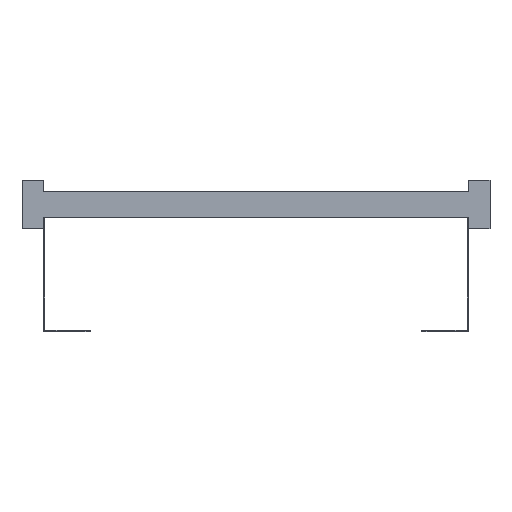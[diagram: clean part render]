
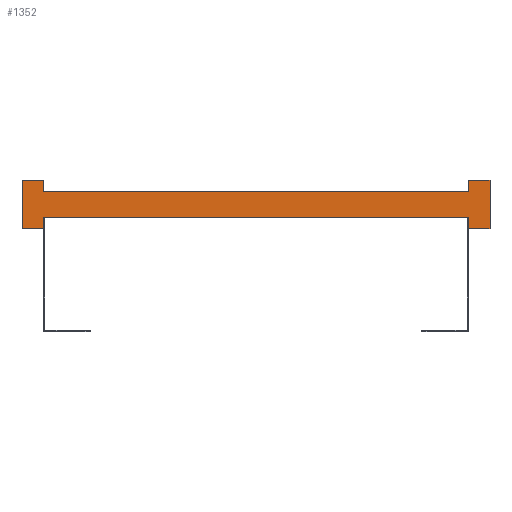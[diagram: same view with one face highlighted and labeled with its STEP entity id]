
A CAD part, front view. The second image highlights one B-rep face of the part: STEP entity #1352.
In plain terms, the highlighted planar face has unit normal (0, -1, 0).
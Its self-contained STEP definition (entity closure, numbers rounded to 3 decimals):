
#113=DIRECTION('',(0.,0.,1.));
#114=VECTOR('',#113,13.5);
#115=CARTESIAN_POINT('',(250.,0.,-28.5));
#116=LINE('',#115,#114);
#117=DIRECTION('',(0.,0.,-1.));
#118=VECTOR('',#117,13.5);
#119=CARTESIAN_POINT('',(-250.,0.,-15.));
#120=LINE('',#119,#118);
#121=DIRECTION('',(-1.,0.,0.));
#122=VECTOR('',#121,25.);
#123=CARTESIAN_POINT('',(-250.,0.,-28.5));
#124=LINE('',#123,#122);
#125=DIRECTION('',(0.,0.,1.));
#126=VECTOR('',#125,57.);
#127=CARTESIAN_POINT('',(-275.,0.,-28.5));
#128=LINE('',#127,#126);
#129=DIRECTION('',(1.,0.,0.));
#130=VECTOR('',#129,25.);
#131=CARTESIAN_POINT('',(-275.,0.,28.5));
#132=LINE('',#131,#130);
#133=DIRECTION('',(0.,0.,-1.));
#134=VECTOR('',#133,13.5);
#135=CARTESIAN_POINT('',(-250.,0.,28.5));
#136=LINE('',#135,#134);
#137=DIRECTION('',(0.,0.,1.));
#138=VECTOR('',#137,13.5);
#139=CARTESIAN_POINT('',(250.,0.,15.));
#140=LINE('',#139,#138);
#141=DIRECTION('',(1.,0.,0.));
#142=VECTOR('',#141,25.);
#143=CARTESIAN_POINT('',(250.,0.,28.5));
#144=LINE('',#143,#142);
#145=DIRECTION('',(0.,0.,-1.));
#146=VECTOR('',#145,57.);
#147=CARTESIAN_POINT('',(275.,0.,28.5));
#148=LINE('',#147,#146);
#149=DIRECTION('',(-1.,0.,0.));
#150=VECTOR('',#149,25.);
#151=CARTESIAN_POINT('',(275.,0.,-28.5));
#152=LINE('',#151,#150);
#1009=DIRECTION('',(1.,0.,0.));
#1010=VECTOR('',#1009,500.);
#1011=CARTESIAN_POINT('',(-250.,0.,-15.));
#1012=LINE('',#1011,#1010);
#1021=DIRECTION('',(1.,0.,0.));
#1022=VECTOR('',#1021,500.);
#1023=CARTESIAN_POINT('',(-250.,0.,15.));
#1024=LINE('',#1023,#1022);
#1025=CARTESIAN_POINT('',(-275.,0.,28.5));
#1026=CARTESIAN_POINT('',(-250.,0.,28.5));
#1027=VERTEX_POINT('',#1025);
#1028=VERTEX_POINT('',#1026);
#1029=CARTESIAN_POINT('',(-250.,0.,-28.5));
#1030=CARTESIAN_POINT('',(-275.,0.,-28.5));
#1031=VERTEX_POINT('',#1029);
#1032=VERTEX_POINT('',#1030);
#1033=CARTESIAN_POINT('',(275.,0.,28.5));
#1034=CARTESIAN_POINT('',(275.,0.,-28.5));
#1035=VERTEX_POINT('',#1033);
#1036=VERTEX_POINT('',#1034);
#1037=CARTESIAN_POINT('',(250.,0.,-28.5));
#1038=VERTEX_POINT('',#1037);
#1039=CARTESIAN_POINT('',(250.,0.,28.5));
#1040=VERTEX_POINT('',#1039);
#1057=CARTESIAN_POINT('',(-250.,0.,-15.));
#1059=VERTEX_POINT('',#1057);
#1061=CARTESIAN_POINT('',(-250.,0.,15.));
#1063=VERTEX_POINT('',#1061);
#1065=CARTESIAN_POINT('',(250.,0.,-15.));
#1067=VERTEX_POINT('',#1065);
#1069=CARTESIAN_POINT('',(250.,0.,15.));
#1071=VERTEX_POINT('',#1069);
#1321=CARTESIAN_POINT('',(0.,0.,0.));
#1322=DIRECTION('',(0.,1.,0.));
#1323=DIRECTION('',(1.,0.,0.));
#1324=AXIS2_PLACEMENT_3D('',#1321,#1322,#1323);
#1325=PLANE('',#1324);
#1327=ORIENTED_EDGE('',*,*,#1326,.T.);
#1329=ORIENTED_EDGE('',*,*,#1328,.F.);
#1331=ORIENTED_EDGE('',*,*,#1330,.T.);
#1333=ORIENTED_EDGE('',*,*,#1332,.T.);
#1335=ORIENTED_EDGE('',*,*,#1334,.T.);
#1337=ORIENTED_EDGE('',*,*,#1336,.T.);
#1339=ORIENTED_EDGE('',*,*,#1338,.T.);
#1341=ORIENTED_EDGE('',*,*,#1340,.T.);
#1343=ORIENTED_EDGE('',*,*,#1342,.T.);
#1345=ORIENTED_EDGE('',*,*,#1344,.T.);
#1347=ORIENTED_EDGE('',*,*,#1346,.T.);
#1349=ORIENTED_EDGE('',*,*,#1348,.T.);
#1350=EDGE_LOOP('',(#1327,#1329,#1331,#1333,#1335,#1337,#1339,#1341,#1343,#1345,
#1347,#1349));
#1351=FACE_OUTER_BOUND('',#1350,.F.);
#1326=EDGE_CURVE('',#1038,#1067,#116,.T.);
#1328=EDGE_CURVE('',#1059,#1067,#1012,.T.);
#1330=EDGE_CURVE('',#1059,#1031,#120,.T.);
#1332=EDGE_CURVE('',#1031,#1032,#124,.T.);
#1334=EDGE_CURVE('',#1032,#1027,#128,.T.);
#1336=EDGE_CURVE('',#1027,#1028,#132,.T.);
#1338=EDGE_CURVE('',#1028,#1063,#136,.T.);
#1340=EDGE_CURVE('',#1063,#1071,#1024,.T.);
#1342=EDGE_CURVE('',#1071,#1040,#140,.T.);
#1344=EDGE_CURVE('',#1040,#1035,#144,.T.);
#1346=EDGE_CURVE('',#1035,#1036,#148,.T.);
#1348=EDGE_CURVE('',#1036,#1038,#152,.T.);
#1352=ADVANCED_FACE('',(#1351),#1325,.F.);
